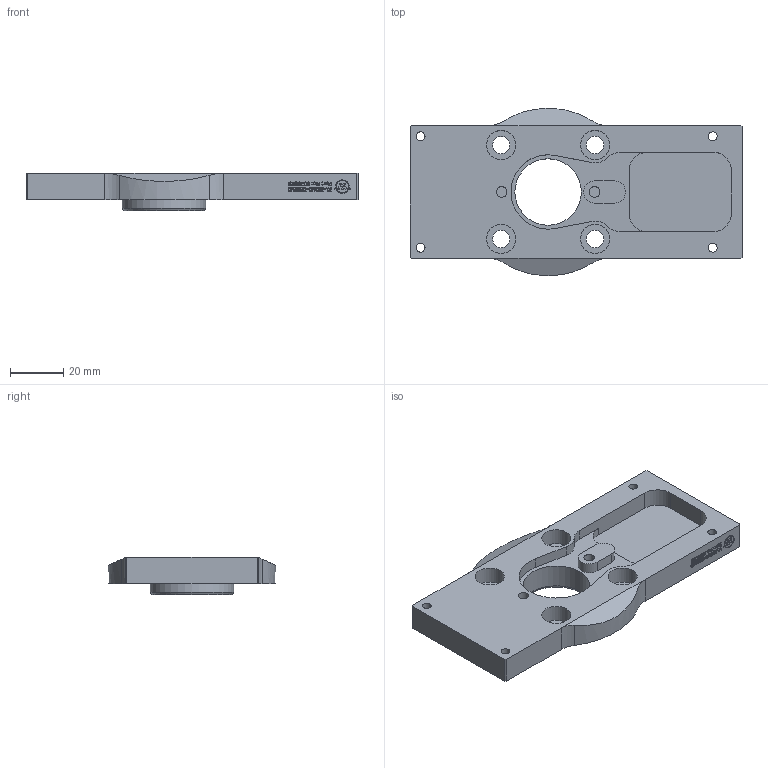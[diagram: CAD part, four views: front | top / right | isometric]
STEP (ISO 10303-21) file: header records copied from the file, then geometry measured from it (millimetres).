
FILE_DESCRIPTION((''),'2;1');
FILE_SCHEMA(('AUTOMOTIVE_DESIGN { 1 0 10303 214 1 1 1 1 }'));
Length unit declared in the file: millimetre
Products named in the file (1): FL-ISO50-WSG50 - CUSTOMER
Bounding box: 125 x 62.92 x 14 mm (x, y, z)
Volume: 47726.7 mm3; surface area: 19927.8 mm2
Topology: 1 solids, 1 shells, 497 faces, 1303 edges, 867 vertices
Faces by surface type: bspline 299, plane 171, cylinder 25, cone 2
Full cylindrical faces by diameter (mm): 25.011 x1, 31.5 x1
Entity records: 21013 total; most frequent: CARTESIAN_POINT 10609, ORIENTED_EDGE 2552, EDGE_CURVE 1276, DIRECTION 1244, VERTEX_POINT 866, VECTOR 654, LINE 654, EDGE_LOOP 600
